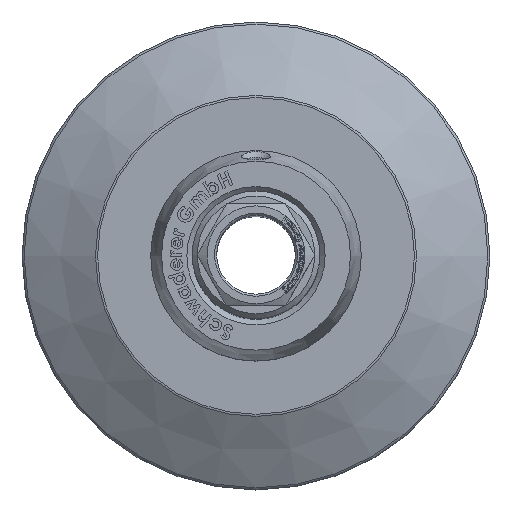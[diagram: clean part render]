
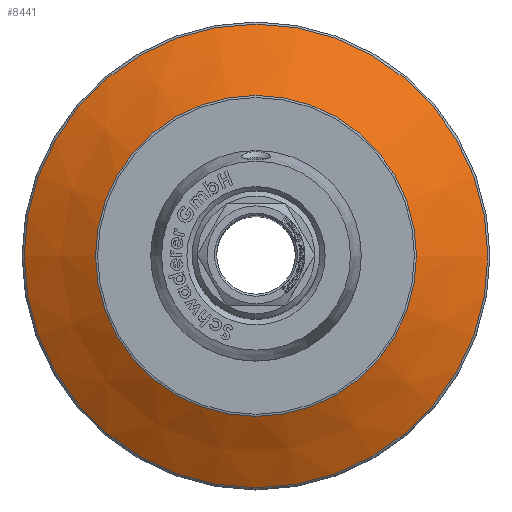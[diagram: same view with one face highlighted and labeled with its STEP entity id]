
A CAD part, top view. The second image highlights one B-rep face of the part: STEP entity #8441.
In plain terms, the highlighted conical face has half-angle 60.255 degrees and reference radius 46.25 mm.
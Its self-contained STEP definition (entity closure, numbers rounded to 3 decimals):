
#967=LINE('',#10956,#1748);
#1748=VECTOR('',#9367,46.25);
#2529=CONICAL_SURFACE('',#8948,46.25,1.052);
#2547=FACE_OUTER_BOUND('',#3026,.T.);
#3026=EDGE_LOOP('',(#5843,#5844,#5845,#5846,#5847,#5848));
#3556=CIRCLE('',#8945,37.731);
#3557=CIRCLE('',#8946,37.731);
#3559=CIRCLE('',#8949,54.496);
#3560=CIRCLE('',#8950,54.496);
#3670=VERTEX_POINT('',#10945);
#3671=VERTEX_POINT('',#10947);
#3672=VERTEX_POINT('',#10952);
#3673=VERTEX_POINT('',#10953);
#4539=EDGE_CURVE('',#3670,#3671,#3556,.T.);
#4540=EDGE_CURVE('',#3671,#3670,#3557,.T.);
#4542=EDGE_CURVE('',#3672,#3673,#3559,.T.);
#4543=EDGE_CURVE('',#3673,#3672,#3560,.T.);
#4544=EDGE_CURVE('',#3673,#3670,#967,.T.);
#5843=ORIENTED_EDGE('',*,*,#4542,.F.);
#5844=ORIENTED_EDGE('',*,*,#4543,.F.);
#5845=ORIENTED_EDGE('',*,*,#4544,.T.);
#5846=ORIENTED_EDGE('',*,*,#4540,.F.);
#5847=ORIENTED_EDGE('',*,*,#4539,.F.);
#5848=ORIENTED_EDGE('',*,*,#4544,.F.);
#8441=ADVANCED_FACE('',(#2547),#2529,.T.);
#8945=AXIS2_PLACEMENT_3D('',#10948,#9355,#9356);
#8946=AXIS2_PLACEMENT_3D('',#10949,#9357,#9358);
#8948=AXIS2_PLACEMENT_3D('',#10951,#9361,#9362);
#8949=AXIS2_PLACEMENT_3D('',#10954,#9363,#9364);
#8950=AXIS2_PLACEMENT_3D('',#10955,#9365,#9366);
#9355=DIRECTION('center_axis',(0.,0.,
1.));
#9356=DIRECTION('ref_axis',(-1.,0.,0.));
#9357=DIRECTION('center_axis',(0.,0.,
1.));
#9358=DIRECTION('ref_axis',(-1.,0.,0.));
#9361=DIRECTION('center_axis',(0.,0.,-1.));
#9362=DIRECTION('ref_axis',(1.,0.,0.));
#9363=DIRECTION('center_axis',(0.,0.,
-1.));
#9364=DIRECTION('ref_axis',(-1.,0.,0.));
#9365=DIRECTION('center_axis',(0.,0.,
-1.));
#9366=DIRECTION('ref_axis',(-1.,0.,0.));
#9367=DIRECTION('',(0.868,0.,0.496));
#10945=CARTESIAN_POINT('',(-37.731,0.,-23.999));
#10947=CARTESIAN_POINT('',(37.731,0.,-23.999));
#10948=CARTESIAN_POINT('Origin',(0.,0.,
-23.999));
#10949=CARTESIAN_POINT('Origin',(0.,0.,
-23.999));
#10951=CARTESIAN_POINT('Origin',(0.,0.,-28.867));
#10952=CARTESIAN_POINT('',(54.496,0.,-33.579));
#10953=CARTESIAN_POINT('',(-54.496,0.,-33.579));
#10954=CARTESIAN_POINT('Origin',(0.,0.,
-33.579));
#10955=CARTESIAN_POINT('Origin',(0.,0.,
-33.579));
#10956=CARTESIAN_POINT('',(-46.25,0.,-28.867));
